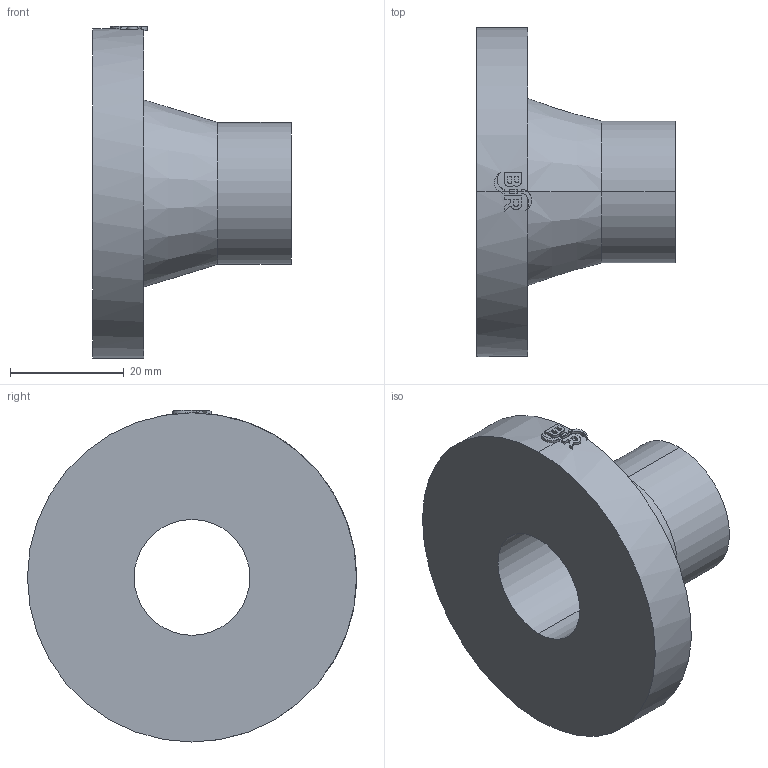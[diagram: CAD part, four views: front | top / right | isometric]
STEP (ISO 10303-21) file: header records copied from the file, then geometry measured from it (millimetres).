
FILE_DESCRIPTION (( 'STEP AP214' ), '1' );
FILE_NAME ('233507F015.STEP', '2018-07-20T09:30:02', ( '' ), ( '' ), 'SwSTEP 2.0', 'SolidWorks 2017', '' );
FILE_SCHEMA (( 'AUTOMOTIVE_DESIGN' ));
Length unit declared in the file: millimetre
Products named in the file (1): 233507F015
Bounding box: 35 x 58 x 58.5 mm (x, y, z)
Volume: 27369.5 mm3; surface area: 10440.8 mm2
Topology: 1 solids, 1 shells, 62 faces, 166 edges, 110 vertices
Faces by surface type: cylinder 30, plane 30, cone 2
Entity records: 2860 total; most frequent: CARTESIAN_POINT 621, ORIENTED_EDGE 332, DIRECTION 304, EDGE_CURVE 166, AXIS2_PLACEMENT_3D 115, VERTEX_POINT 110, VECTOR 74, LINE 74
